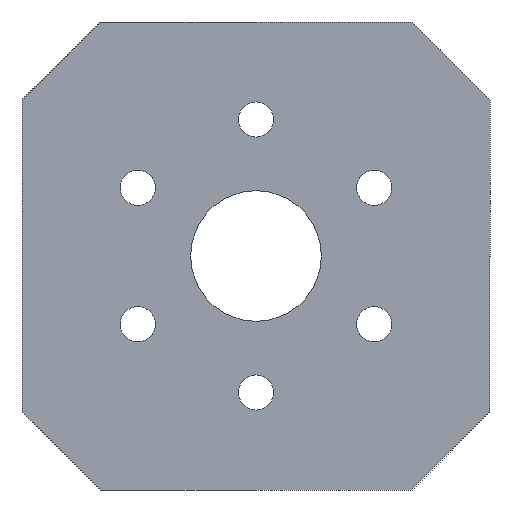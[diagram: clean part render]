
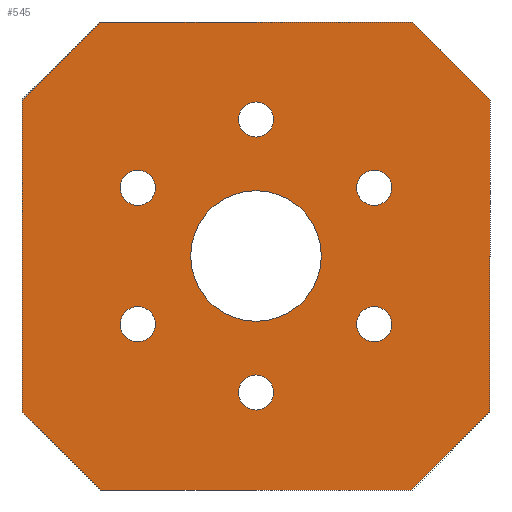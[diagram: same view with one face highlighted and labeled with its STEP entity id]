
A CAD part, left-side view. The second image highlights one B-rep face of the part: STEP entity #545.
In plain terms, the highlighted planar face has unit normal (-1, 0, 0).
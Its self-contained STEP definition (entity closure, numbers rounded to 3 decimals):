
#28=FACE_BOUND('',#120,.T.);
#29=FACE_BOUND('',#121,.T.);
#30=FACE_BOUND('',#122,.T.);
#31=FACE_BOUND('',#123,.T.);
#32=FACE_BOUND('',#124,.T.);
#33=FACE_BOUND('',#125,.T.);
#34=FACE_BOUND('',#126,.T.);
#48=CIRCLE('',#595,4.5);
#49=CIRCLE('',#596,4.5);
#50=CIRCLE('',#597,4.5);
#51=CIRCLE('',#598,4.5);
#52=CIRCLE('',#599,4.5);
#53=CIRCLE('',#600,4.5);
#54=CIRCLE('',#601,16.75);
#55=CIRCLE('',#602,16.75);
#90=FACE_OUTER_BOUND('',#119,.T.);
#119=EDGE_LOOP('',(#381,#382,#383,#384,#385,#386,#387,#388));
#120=EDGE_LOOP('',(#389));
#121=EDGE_LOOP('',(#390));
#122=EDGE_LOOP('',(#391));
#123=EDGE_LOOP('',(#392));
#124=EDGE_LOOP('',(#393));
#125=EDGE_LOOP('',(#394));
#126=EDGE_LOOP('',(#395,#396));
#168=LINE('',#846,#205);
#170=LINE('',#850,#207);
#173=LINE('',#856,#210);
#174=LINE('',#858,#211);
#175=LINE('',#860,#212);
#176=LINE('',#862,#213);
#177=LINE('',#864,#214);
#178=LINE('',#865,#215);
#205=VECTOR('',#667,10.);
#207=VECTOR('',#671,10.);
#210=VECTOR('',#676,10.);
#211=VECTOR('',#677,10.);
#212=VECTOR('',#678,10.);
#213=VECTOR('',#679,10.);
#214=VECTOR('',#680,10.);
#215=VECTOR('',#681,10.);
#242=VERTEX_POINT('',#843);
#243=VERTEX_POINT('',#845);
#244=VERTEX_POINT('',#849);
#246=VERTEX_POINT('',#855);
#247=VERTEX_POINT('',#857);
#248=VERTEX_POINT('',#859);
#249=VERTEX_POINT('',#861);
#250=VERTEX_POINT('',#863);
#251=VERTEX_POINT('',#866);
#252=VERTEX_POINT('',#868);
#253=VERTEX_POINT('',#870);
#254=VERTEX_POINT('',#872);
#255=VERTEX_POINT('',#874);
#256=VERTEX_POINT('',#876);
#257=VERTEX_POINT('',#878);
#258=VERTEX_POINT('',#879);
#298=EDGE_CURVE('',#242,#243,#168,.T.);
#300=EDGE_CURVE('',#243,#244,#170,.T.);
#303=EDGE_CURVE('',#246,#242,#173,.T.);
#304=EDGE_CURVE('',#247,#246,#174,.T.);
#305=EDGE_CURVE('',#248,#247,#175,.T.);
#306=EDGE_CURVE('',#249,#248,#176,.T.);
#307=EDGE_CURVE('',#250,#249,#177,.T.);
#308=EDGE_CURVE('',#244,#250,#178,.T.);
#309=EDGE_CURVE('',#251,#251,#48,.T.);
#310=EDGE_CURVE('',#252,#252,#49,.T.);
#311=EDGE_CURVE('',#253,#253,#50,.T.);
#312=EDGE_CURVE('',#254,#254,#51,.T.);
#313=EDGE_CURVE('',#255,#255,#52,.T.);
#314=EDGE_CURVE('',#256,#256,#53,.T.);
#315=EDGE_CURVE('',#257,#258,#54,.T.);
#316=EDGE_CURVE('',#258,#257,#55,.T.);
#381=ORIENTED_EDGE('',*,*,#298,.F.);
#382=ORIENTED_EDGE('',*,*,#303,.F.);
#383=ORIENTED_EDGE('',*,*,#304,.F.);
#384=ORIENTED_EDGE('',*,*,#305,.F.);
#385=ORIENTED_EDGE('',*,*,#306,.F.);
#386=ORIENTED_EDGE('',*,*,#307,.F.);
#387=ORIENTED_EDGE('',*,*,#308,.F.);
#388=ORIENTED_EDGE('',*,*,#300,.F.);
#389=ORIENTED_EDGE('',*,*,#309,.T.);
#390=ORIENTED_EDGE('',*,*,#310,.T.);
#391=ORIENTED_EDGE('',*,*,#311,.T.);
#392=ORIENTED_EDGE('',*,*,#312,.T.);
#393=ORIENTED_EDGE('',*,*,#313,.T.);
#394=ORIENTED_EDGE('',*,*,#314,.T.);
#395=ORIENTED_EDGE('',*,*,#315,.T.);
#396=ORIENTED_EDGE('',*,*,#316,.T.);
#529=PLANE('',#594);
#545=ADVANCED_FACE('',(#90,#28,#29,#30,#31,#32,#33,#34),#529,.F.);
#594=AXIS2_PLACEMENT_3D('',#854,#674,#675);
#595=AXIS2_PLACEMENT_3D('',#867,#682,#683);
#596=AXIS2_PLACEMENT_3D('',#869,#684,#685);
#597=AXIS2_PLACEMENT_3D('',#871,#686,#687);
#598=AXIS2_PLACEMENT_3D('',#873,#688,#689);
#599=AXIS2_PLACEMENT_3D('',#875,#690,#691);
#600=AXIS2_PLACEMENT_3D('',#877,#692,#693);
#601=AXIS2_PLACEMENT_3D('',#880,#694,#695);
#602=AXIS2_PLACEMENT_3D('',#881,#696,#697);
#667=DIRECTION('',(0.,0.707,-0.707));
#671=DIRECTION('',(0.,1.,0.));
#674=DIRECTION('center_axis',(1.,0.,0.));
#675=DIRECTION('ref_axis',(0.,0.,-1.));
#676=DIRECTION('',(0.,0.,-1.));
#677=DIRECTION('',(0.,-0.707,-0.707));
#678=DIRECTION('',(0.,-1.,0.));
#679=DIRECTION('',(0.,-0.707,0.707));
#680=DIRECTION('',(0.,0.,1.));
#681=DIRECTION('',(0.,0.707,0.707));
#682=DIRECTION('center_axis',(1.,0.,0.));
#683=DIRECTION('ref_axis',(0.,-0.866,0.5));
#684=DIRECTION('center_axis',(1.,0.,0.));
#685=DIRECTION('ref_axis',(0.,0.866,0.5));
#686=DIRECTION('center_axis',(1.,0.,0.));
#687=DIRECTION('ref_axis',(0.,0.866,-0.5));
#688=DIRECTION('center_axis',(1.,0.,0.));
#689=DIRECTION('ref_axis',(0.,0.,1.));
#690=DIRECTION('center_axis',(1.,0.,0.));
#691=DIRECTION('ref_axis',(0.,-0.866,-0.5));
#692=DIRECTION('center_axis',(1.,0.,0.));
#693=DIRECTION('ref_axis',(0.,0.,-1.));
#694=DIRECTION('center_axis',(1.,0.,0.));
#695=DIRECTION('ref_axis',(0.,0.,-1.));
#696=DIRECTION('center_axis',(1.,0.,0.));
#697=DIRECTION('ref_axis',(0.,0.,-1.));
#843=CARTESIAN_POINT('',(0.,0.,-100.));
#845=CARTESIAN_POINT('',(0.,20.,-120.));
#846=CARTESIAN_POINT('',(0.,10.,-110.));
#849=CARTESIAN_POINT('',(0.,100.,-120.));
#850=CARTESIAN_POINT('',(0.,0.,-120.));
#854=CARTESIAN_POINT('Origin',(0.,60.,-60.));
#855=CARTESIAN_POINT('',(0.,0.,-20.));
#856=CARTESIAN_POINT('',(0.,0.,0.));
#857=CARTESIAN_POINT('',(0.,20.,0.));
#858=CARTESIAN_POINT('',(0.,10.,-10.));
#859=CARTESIAN_POINT('',(0.,100.,0.));
#860=CARTESIAN_POINT('',(0.,120.,0.));
#861=CARTESIAN_POINT('',(0.,120.,-20.));
#862=CARTESIAN_POINT('',(0.,110.,-10.));
#863=CARTESIAN_POINT('',(0.,120.,-100.));
#864=CARTESIAN_POINT('',(0.,120.,-120.));
#865=CARTESIAN_POINT('',(0.,110.,-110.));
#866=CARTESIAN_POINT('',(0.,94.208,-79.75));
#867=CARTESIAN_POINT('Origin',(0.,90.311,-77.5));
#868=CARTESIAN_POINT('',(0.,25.792,-79.75));
#869=CARTESIAN_POINT('Origin',(0.,29.689,-77.5));
#870=CARTESIAN_POINT('',(0.,25.792,-40.25));
#871=CARTESIAN_POINT('Origin',(0.,29.689,-42.5));
#872=CARTESIAN_POINT('',(0.,60.,-99.5));
#873=CARTESIAN_POINT('Origin',(0.,60.,-95.));
#874=CARTESIAN_POINT('',(0.,94.208,-40.25));
#875=CARTESIAN_POINT('Origin',(0.,90.311,-42.5));
#876=CARTESIAN_POINT('',(0.,60.,-20.5));
#877=CARTESIAN_POINT('Origin',(0.,60.,-25.));
#878=CARTESIAN_POINT('',(0.,60.,-76.75));
#879=CARTESIAN_POINT('',(0.,60.,-43.25));
#880=CARTESIAN_POINT('Origin',(0.,60.,-60.));
#881=CARTESIAN_POINT('Origin',(0.,60.,-60.));
